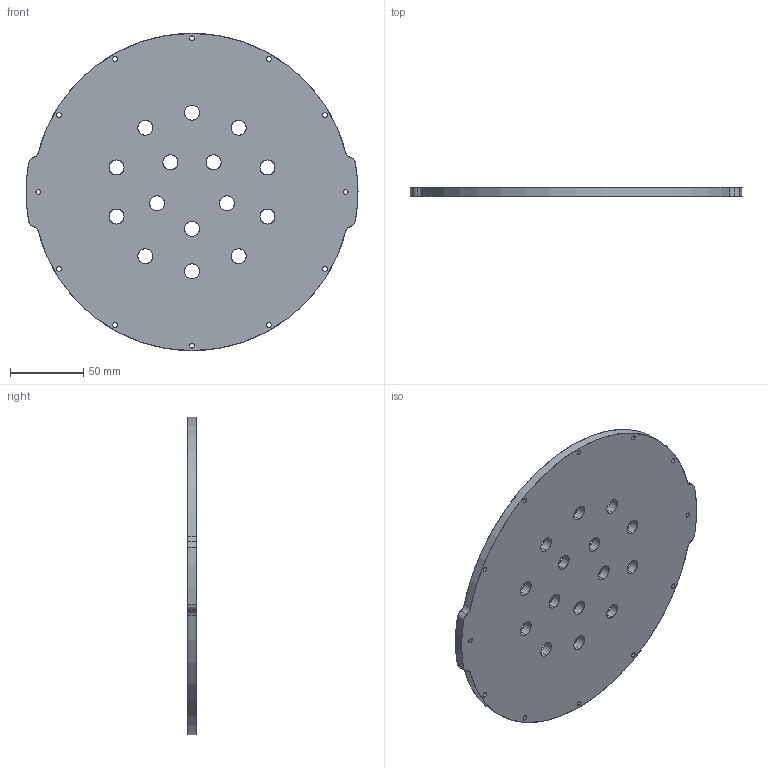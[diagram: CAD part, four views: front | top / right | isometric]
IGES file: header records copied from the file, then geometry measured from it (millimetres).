
Start section: SolidWorks IGES file using analytic representation for surfaces
Global section: file name: C:\Users\Brian\Desktop\WTE8-M-END-CAP-15-10MM-X1A\WTE8-M-END-CAP-15-10MM-X1A.IGS; native system: SolidWorks 2014; preprocessor: SolidWorks 2014; author: Brian; date: 170512.100524; units: millimetre
Bounding box: 225.9 x 6 x 215.9 mm (x, y, z)
Surface area: 79276.1 mm2 (no closed solid volume)
Topology: 0 solids, 0 shells, 69 faces, 1820 edges, 1820 vertices
Faces by surface type: revolution 67, bspline 2
